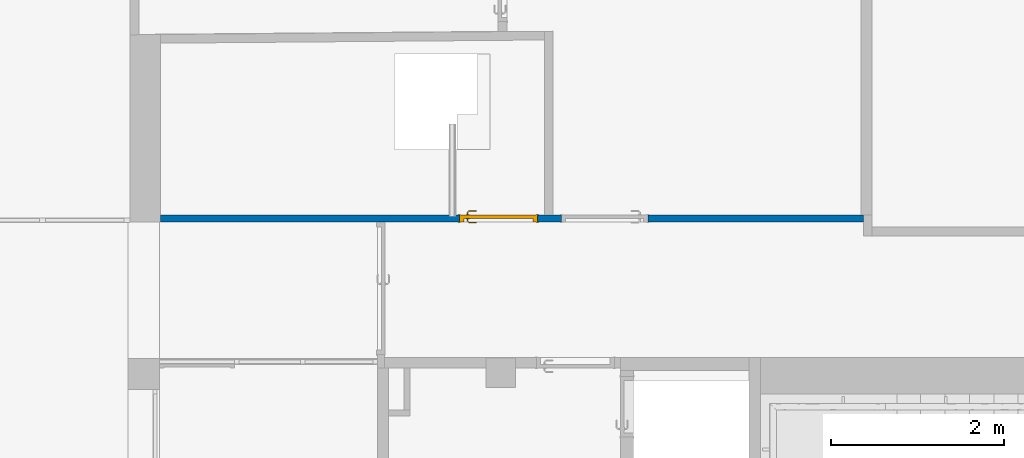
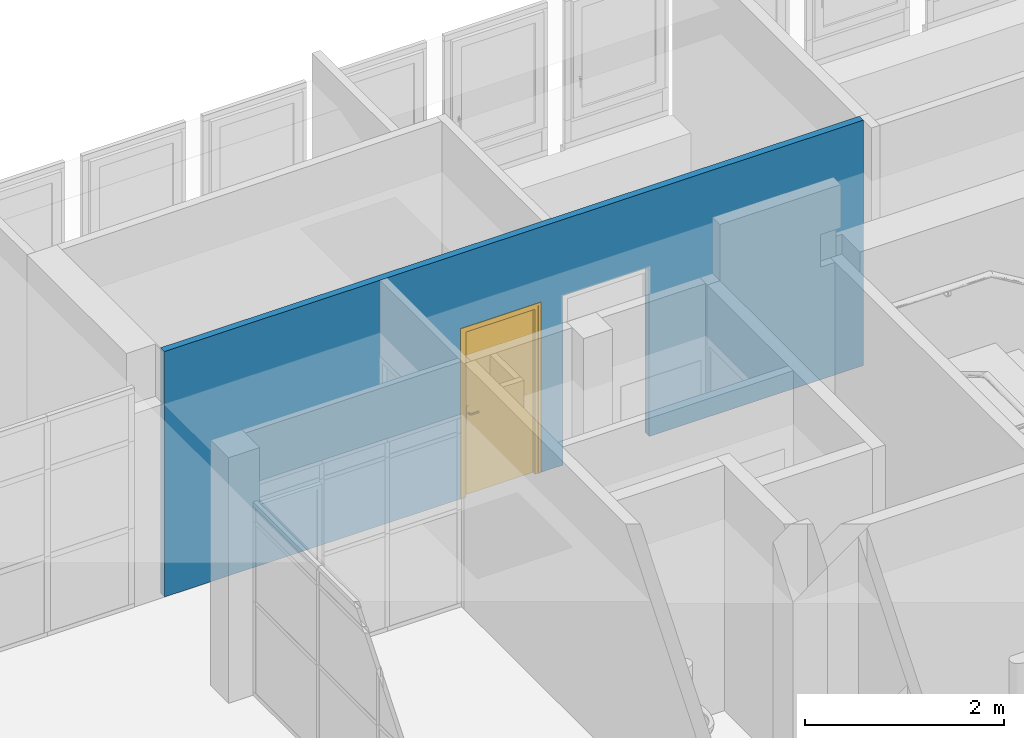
# One storey, part 68 of 97: 1 door, 1 wall, 2 openings.
"""IFC4 building model written with IfcOpenShell, lengths in metres."""

from ifc_helpers import new_model, entity, si_unit, converted_unit, derived_unit, direction, frame, origin, place, context, subcontext, project, spatial, indexed_curve, outline, extrude, polygons, source, transform, mapped, material, material_list, layer, layer_set, constituent, constituent_set, type_object, type_shapes, element, fill, save


model = new_model("IFC4")

# Units and contexts
model_context = context("Model", 3, precision=1e-05, world=origin(), true_north=direction((6.12303176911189e-17, 1.0)))
body_context = subcontext(model_context, "Body", "Model", "MODEL_VIEW")
ifc_project = project(units=[si_unit("LENGTHUNIT", "METRE"), si_unit("AREAUNIT", "SQUARE_METRE"), si_unit("VOLUMEUNIT", "CUBIC_METRE"), converted_unit("PLANEANGLEUNIT", "DEGREE", entity("IfcRatioMeasure", 0.0174532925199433), si_unit("PLANEANGLEUNIT", "RADIAN"), dimensions=[0, 0, 0, 0, 0, 0, 0]), si_unit("MASSUNIT", "GRAM", prefix="KILO"), derived_unit("MASSDENSITYUNIT", [(si_unit("MASSUNIT", "GRAM", prefix="KILO"), 1), (si_unit("LENGTHUNIT", "METRE"), -3)]), derived_unit("MOMENTOFINERTIAUNIT", [(si_unit("LENGTHUNIT", "METRE"), 4)]), si_unit("TIMEUNIT", "SECOND"), si_unit("FREQUENCYUNIT", "HERTZ"), si_unit("THERMODYNAMICTEMPERATUREUNIT", "DEGREE_CELSIUS"), derived_unit("THERMALTRANSMITTANCEUNIT", [(si_unit("MASSUNIT", "GRAM", prefix="KILO"), 1), (si_unit("THERMODYNAMICTEMPERATUREUNIT", "KELVIN"), -1), (si_unit("TIMEUNIT", "SECOND"), -3)]), derived_unit("VOLUMETRICFLOWRATEUNIT", [(si_unit("LENGTHUNIT", "METRE"), 3), (si_unit("TIMEUNIT", "SECOND"), -1)]), si_unit("ELECTRICCURRENTUNIT", "AMPERE"), si_unit("ELECTRICVOLTAGEUNIT", "VOLT"), si_unit("POWERUNIT", "WATT"), si_unit("FORCEUNIT", "NEWTON", prefix="KILO"), si_unit("ILLUMINANCEUNIT", "LUX"), si_unit("LUMINOUSFLUXUNIT", "LUMEN"), si_unit("LUMINOUSINTENSITYUNIT", "CANDELA"), derived_unit("USERDEFINED", [(si_unit("MASSUNIT", "GRAM", prefix="KILO"), -1), (si_unit("LENGTHUNIT", "METRE"), -2), (si_unit("TIMEUNIT", "SECOND"), 3), (si_unit("LUMINOUSFLUXUNIT", "LUMEN"), 1)]), derived_unit("LINEARVELOCITYUNIT", [(si_unit("LENGTHUNIT", "METRE"), 1), (si_unit("TIMEUNIT", "SECOND"), -1)]), si_unit("PRESSUREUNIT", "PASCAL"), derived_unit("USERDEFINED", [(si_unit("LENGTHUNIT", "METRE"), -2), (si_unit("MASSUNIT", "GRAM", prefix="KILO"), 1), (si_unit("TIMEUNIT", "SECOND"), -2)]), derived_unit("LINEARFORCEUNIT", [(si_unit("MASSUNIT", "GRAM", prefix="KILO"), 1), (si_unit("LENGTHUNIT", "METRE"), 1), (si_unit("TIMEUNIT", "SECOND"), -2), (si_unit("LENGTHUNIT", "METRE"), -1)]), derived_unit("PLANARFORCEUNIT", [(si_unit("MASSUNIT", "GRAM", prefix="KILO"), 1), (si_unit("LENGTHUNIT", "METRE"), 1), (si_unit("TIMEUNIT", "SECOND"), -2), (si_unit("LENGTHUNIT", "METRE"), -2)])], contexts=[model_context])

# Site, building, storey
site_placement = place(None, origin())
site = spatial("IfcSite", under=ifc_project, at=site_placement, Name="Default", CompositionType="ELEMENT")
building_placement = place(site_placement, origin())
building = spatial("IfcBuilding", under=site, at=building_placement, Name="HOTEL CONSULAIRE BOULOGNE SUR MER", CompositionType="ELEMENT")
storey_placement = place(building_placement, frame((0.0, 0.0, 3.62152697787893)))
storey = spatial("IfcBuildingStorey", under=building, at=storey_placement, Name="Niveau 1", CompositionType="ELEMENT", Elevation=3.62152697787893)

# Wall, openings, door
ifc_material_1 = material(Name="Mur par défaut", Category="Divers")
ifc_layer = layer(ifc_material_1, 0.08, Name="Mur par défaut", Category="Divers")
ifc_layer_set = layer_set([ifc_layer], Name="Mur de base:Générique - Int. 80")
wall_type = type_object("IfcWallType", Name="Mur de base:Générique - Int. 80", PredefinedType="NOTDEFINED", material=ifc_layer_set)
wall_placement = place(storey_placement, frame((-5.1597731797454, -13.8309141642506, 0.0)))
wall = element("IfcWall", 1, at=wall_placement, inside=storey, type_object=wall_type, material=ifc_layer_set, Name="Mur de base:Générique - Int. 80", ObjectType="Mur de base:Générique - Int. 80", PredefinedType="NOTDEFINED", context=body_context, shape_type="Tessellation", body=[
    polygons([(8.104070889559, 0.0400000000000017, 5.41433564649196e-16), (8.104070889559, -0.0399999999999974, 5.41433564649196e-16), (5.61997356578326, -0.0399999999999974, 5.41433564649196e-16), (5.61997356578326, 0.0400000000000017, 5.41433564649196e-16), (8.074070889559, 0.0400000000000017, 5.41433564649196e-16), (4.34597356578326, -0.0399999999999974, 5.41433564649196e-16), (4.34597356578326, 0.0400000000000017, 5.41433564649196e-16), (4.42697356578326, 0.0400000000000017, 5.41433564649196e-16), (4.52697356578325, 0.0399999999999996, 5.41433564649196e-16), (4.61997356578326, 0.0399999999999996, 5.41433564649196e-16), (4.61997356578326, -0.0399999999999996, 5.41433564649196e-16), (8.104070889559, -0.0399999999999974, 3.0102145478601), (2.57924449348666, -0.0399999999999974, 3.0102145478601), (2.49924449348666, -0.0399999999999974, 3.0102145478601), (-1.96393817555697e-16, -0.0399999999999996, 3.0102145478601), (-1.96393817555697e-16, -0.0399999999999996, 5.41433564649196e-16), (2.49924449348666, -0.0399999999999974, 5.41433564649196e-16), (2.57924449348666, -0.0399999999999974, 5.41433564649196e-16), (3.44597356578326, -0.0399999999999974, 5.41433564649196e-16), (3.44597356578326, -0.0399999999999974, 2.07500000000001), (4.34597356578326, -0.0399999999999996, 2.07500000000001), (4.61997356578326, -0.0399999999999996, 2.07500000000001), (5.61997356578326, -0.0399999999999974, 2.07500000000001), (-4.20095427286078e-16, 0.0399999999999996, 3.0102145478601), (4.42697356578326, 0.0399999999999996, 3.0102145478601), (4.52697356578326, 0.0399999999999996, 3.0102145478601), (8.074070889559, 0.0400000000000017, 3.0102145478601), (8.104070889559, 0.0400000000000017, 3.0102145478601), (5.61997356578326, 0.0400000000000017, 2.07500000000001), (4.61997356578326, 0.0399999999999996, 2.07500000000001), (4.34597356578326, 0.0399999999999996, 2.07500000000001), (3.44597356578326, 0.0400000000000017, 2.07500000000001), (3.44597356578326, 0.0400000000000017, 5.41433564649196e-16), (-4.20095427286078e-16, 0.0399999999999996, 5.41433564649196e-16)], [[[2, 3, 4, 5, 1]], [[11, 6, 7, 8, 9, 10]], [[19, 18, 17, 16, 34, 33]], [[31, 21, 20, 32]], [[23, 22, 30, 29]], [[14, 15, 16, 17, 18, 19, 20, 21, 6, 11, 22, 23, 3, 2, 12, 13]], [[27, 28, 1, 5, 4, 29, 30, 10, 9, 8, 7, 31, 32, 33, 34, 24, 25, 26]], [[13, 12, 28, 27, 26, 25, 24, 15, 14]], [[34, 16, 15, 24]], [[7, 6, 21, 31]], [[3, 23, 29, 4]], [[32, 20, 19, 33]], [[2, 1, 28, 12]], [[11, 10, 30, 22]]], closed=True),
])
opening_1_placement = place(wall_placement, frame((3.44597356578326, -0.0400000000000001, 0.0)))
opening_1 = element("IfcOpeningElement", 2, at=opening_1_placement, cuts=wall, Name="Int. Simple:PP (0.83m x 2.04m):1", ObjectType="Opening", PredefinedType="OPENING", context=body_context, shape_type="SweptSolid", body=[
    extrude(outline(indexed_curve([(0.0, 0.9), (0.0, -5.08607527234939e-30), (2.075, -5.08607527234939e-30), (2.075, 0.9), (0.0, 0.9)], self_intersect=False)), frame((0.0, 0.0, 0.0), z_axis=(0.0, 1.0, 0.0), x_axis=(0.0, 0.0, 1.0)), (0.0, 0.0, 1.0), 0.08),
])
opening_2_placement = place(wall_placement, frame((4.61997356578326, -0.039999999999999, 0.0)))
element("IfcOpeningElement", 3, at=opening_2_placement, cuts=wall, Name="Int. Simple:PP0.93x2.04:1", ObjectType="Opening", PredefinedType="OPENING", context=body_context, shape_type="SweptSolid", body=[
    extrude(outline(indexed_curve([(0.0, -4.28176569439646e-30), (2.075, -4.28176569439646e-30), (2.075, 1.0), (0.0, 1.0), (0.0, -4.28176569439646e-30)], self_intersect=False)), frame((0.0, 0.0, 0.0), z_axis=(0.0, 1.0, 0.0), x_axis=(0.0, 0.0, 1.0)), (0.0, 0.0, 1.0), 0.08),
])
ifc_material_2 = material(Name="Finition Peinture - Blanc satiné", Category="Peinture")
ifc_constituent_1 = constituent(ifc_material_2, Name="Finition Peinture - Blanc satiné", Category="Matériaux")
ifc_material_3 = material(Name="Bois - Panneau de porte", Category="Bois")
ifc_constituent_2 = constituent(ifc_material_3, Name="Bois - Panneau de porte", Category="Matériaux")
ifc_material_4 = material(Name="Bois - Cadre de porte", Category="Bois")
ifc_constituent_3 = constituent(ifc_material_4, Name="Bois - Cadre de porte", Category="Matériaux")
ifc_constituent_set = constituent_set(constituents=[ifc_constituent_1, ifc_constituent_2, ifc_constituent_3], Name="MaterialConstituentSet")
ifc_material_list = material_list([ifc_material_4, ifc_material_4, ifc_material_3, ifc_material_2])
door_type = type_object("IfcDoorType", Name="Int. Simple:PP (0.83m x 2.04m)", OperationType="NOTDEFINED", PredefinedType="DOOR", material=ifc_material_list)
shared_shape = source(origin(), body_context, "Body", "Tessellation", [
    polygons([(0.895000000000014, -0.00500000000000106, 0.870000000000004), (0.895000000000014, -0.00500000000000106, 1.08), (0.885352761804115, -0.00500000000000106, 1.08399601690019), (0.875000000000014, -0.00500000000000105, 1.08535898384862), (0.864647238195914, -0.00500000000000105, 1.08399601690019), (0.855000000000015, -0.00500000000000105, 1.08), (0.855000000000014, -0.00500000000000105, 0.870000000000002), (0.864647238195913, -0.00500000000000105, 0.866003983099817), (0.875000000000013, -0.00500000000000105, 0.86464101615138), (0.885352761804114, -0.00500000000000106, 0.866003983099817), (0.895000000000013, -1.06594733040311e-15, 0.870000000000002), (0.885352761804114, -1.06594733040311e-15, 0.866003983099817), (0.875000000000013, -1.05748743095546e-15, 0.86464101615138), (0.864647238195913, -1.05748743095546e-15, 0.866003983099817), (0.855000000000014, -1.04902753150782e-15, 0.870000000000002), (0.855000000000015, -1.04902753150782e-15, 1.08), (0.864647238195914, -1.05748743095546e-15, 1.08399601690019), (0.875000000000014, -1.05748743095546e-15, 1.08535898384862), (0.885352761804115, -1.06594733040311e-15, 1.08399601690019), (0.895000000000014, -1.06594733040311e-15, 1.08)], [[[1, 2, 3, 4, 5, 6, 7, 8, 9, 10]], [[20, 11, 12, 13, 14, 15, 16, 17, 18, 19]], [[10, 12, 11, 1]], [[9, 13, 12, 10]], [[8, 14, 13, 9]], [[8, 7, 15, 14]], [[15, 7, 6, 16]], [[5, 17, 16, 6]], [[4, 18, 17, 5]], [[3, 19, 18, 4]], [[3, 2, 20, 19]], [[11, 20, 2, 1]]], closed=True),
    polygons([(0.855000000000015, 0.0399999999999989, 1.08), (0.855000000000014, 0.0399999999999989, 0.870000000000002), (0.864647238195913, 0.0399999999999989, 0.866003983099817), (0.875000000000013, 0.0399999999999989, 0.86464101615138), (0.885352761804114, 0.0399999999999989, 0.866003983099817), (0.895000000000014, 0.0399999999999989, 0.870000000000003), (0.895000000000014, 0.0399999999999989, 1.08), (0.885352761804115, 0.0399999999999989, 1.08399601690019), (0.875000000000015, 0.0399999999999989, 1.08535898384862), (0.864647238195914, 0.0399999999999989, 1.08399601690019), (0.855000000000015, 0.0449999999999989, 1.08), (0.864647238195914, 0.0449999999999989, 1.08399601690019), (0.875000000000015, 0.0449999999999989, 1.08535898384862), (0.885352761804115, 0.0449999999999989, 1.08399601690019), (0.895000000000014, 0.0449999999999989, 1.08), (0.895000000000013, 0.0449999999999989, 0.870000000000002), (0.885352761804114, 0.0449999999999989, 0.866003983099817), (0.875000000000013, 0.0449999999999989, 0.86464101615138), (0.864647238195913, 0.0449999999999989, 0.866003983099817), (0.855000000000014, 0.0449999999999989, 0.870000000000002)], [[[6, 7, 8, 9, 10, 1, 2, 3, 4, 5]], [[13, 14, 15, 16, 17, 18, 19, 20, 11, 12]], [[10, 12, 11, 1]], [[9, 13, 12, 10]], [[8, 14, 13, 9]], [[8, 7, 15, 14]], [[16, 15, 7, 6]], [[5, 17, 16, 6]], [[4, 18, 17, 5]], [[3, 19, 18, 4]], [[3, 2, 20, 19]], [[20, 2, 1, 11]]], closed=True),
    polygons([(0.881000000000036, -0.00500000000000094, 1.00699999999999), (0.881000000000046, -0.00500000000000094, 0.992999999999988), (0.877025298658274, -0.00500000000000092, 0.99221955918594), (0.872974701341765, -0.0050000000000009, 0.992219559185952), (0.868999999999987, -0.00500000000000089, 0.993000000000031), (0.868999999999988, -0.00500000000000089, 1.007), (0.872974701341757, -0.0050000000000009, 1.00778044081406), (0.877025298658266, -0.00500000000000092, 1.00778044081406), (0.868999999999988, -0.0276803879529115, 1.007), (0.872974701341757, -0.0293267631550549, 1.00778044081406), (0.877025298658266, -0.0310045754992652, 1.00778044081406), (0.881000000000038, -0.0326509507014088, 1.007), (0.868999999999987, -0.0276803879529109, 0.993000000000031), (0.881000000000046, -0.0326509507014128, 0.992999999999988), (0.877025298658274, -0.0310045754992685, 0.99221955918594), (0.872974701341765, -0.0293267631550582, 0.992219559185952), (0.85765222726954, -0.0390281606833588, 1.007), (0.859298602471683, -0.0430028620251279, 1.00778044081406), (0.860976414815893, -0.0470534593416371, 1.00778044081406), (0.862622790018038, -0.0510281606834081, 1.007), (0.857652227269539, -0.0390281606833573, 0.993000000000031), (0.862622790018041, -0.0510281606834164, 0.992999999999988), (0.860976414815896, -0.047053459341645, 0.99221955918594), (0.859298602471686, -0.0430028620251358, 0.992219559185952), (0.774981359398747, -0.0510281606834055, 1.007), (0.774981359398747, -0.0470534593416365, 1.00778044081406), (0.774981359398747, -0.0430028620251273, 1.00778044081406), (0.774981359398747, -0.0390281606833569, 1.00699999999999), (0.774981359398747, -0.0390281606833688, 0.993000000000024), (0.774981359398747, -0.0430028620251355, 0.992219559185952), (0.774981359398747, -0.0470534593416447, 0.99221955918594), (0.774981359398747, -0.0510281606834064, 0.992999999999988), (0.822692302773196, -0.051028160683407, 1.007), (0.81713998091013, -0.045028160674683, 1.0078786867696), (0.816316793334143, -0.039028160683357, 1.007), (0.822692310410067, -0.0510281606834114, 0.992999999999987), (0.817139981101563, -0.0450281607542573, 0.992121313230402), (0.816316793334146, -0.039028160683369, 0.993000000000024)], [[[7, 8, 1, 2, 3, 4, 5, 6]], [[17, 21, 38, 29, 28, 35]], [[1, 8, 11, 12]], [[8, 7, 10, 18, 19, 11]], [[7, 6, 9, 10]], [[13, 9, 6, 5]], [[25, 26, 27, 28, 29, 30, 31, 32]], [[4, 16, 13, 5]], [[4, 3, 15, 23, 24, 16]], [[2, 14, 15, 3]], [[12, 14, 2, 1]], [[12, 11, 19, 20]], [[10, 9, 17, 18]], [[21, 17, 9, 13]], [[13, 16, 24, 21]], [[15, 14, 22, 23]], [[20, 22, 14, 12]], [[34, 26, 33]], [[33, 26, 25]], [[33, 20, 19]], [[18, 35, 34]], [[35, 18, 17]], [[28, 27, 35]], [[34, 27, 26]], [[34, 35, 27]], [[34, 33, 19]], [[18, 34, 19]], [[37, 30, 38]], [[31, 37, 36]], [[24, 38, 21]], [[30, 29, 38]], [[31, 36, 32]], [[36, 23, 22]], [[37, 23, 36]], [[37, 24, 23]], [[37, 38, 24]], [[30, 37, 31]], [[22, 20, 33, 25, 32, 36]]], closed=True),
    polygons([(0.868999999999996, 0.0449999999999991, 0.993000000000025), (0.872974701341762, 0.0449999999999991, 0.992219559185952), (0.877025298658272, 0.0449999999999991, 0.99221955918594), (0.881000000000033, 0.044999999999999, 0.992999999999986), (0.881000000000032, 0.044999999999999, 1.007), (0.877025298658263, 0.0449999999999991, 1.00778044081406), (0.872974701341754, 0.0449999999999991, 1.00778044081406), (0.868999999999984, 0.0449999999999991, 1.007), (0.868999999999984, 0.067485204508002, 1.007), (0.868999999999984, 0.0674852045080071, 0.993000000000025), (0.881000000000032, 0.0724557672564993, 1.007), (0.877025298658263, 0.070809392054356, 1.00778044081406), (0.872974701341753, 0.0691315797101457, 1.00778044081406), (0.881000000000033, 0.0724557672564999, 0.992999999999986), (0.872974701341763, 0.0691315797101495, 0.992219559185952), (0.877025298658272, 0.0708093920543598, 0.99221955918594), (0.857514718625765, 0.0789704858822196, 1.007), (0.857514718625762, 0.0789704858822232, 0.993000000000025), (0.862485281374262, 0.0909704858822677, 1.007), (0.860838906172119, 0.0869957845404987, 1.00778044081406), (0.859161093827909, 0.0829451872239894, 1.00778044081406), (0.862485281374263, 0.0909704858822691, 0.992999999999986), (0.859161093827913, 0.0829451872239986, 0.992219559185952), (0.860838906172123, 0.0869957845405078, 0.99221955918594), (0.77495421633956, 0.0789704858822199, 0.993000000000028), (0.77495421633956, 0.0789704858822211, 1.007), (0.77495421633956, 0.0829451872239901, 1.00778044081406), (0.77495421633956, 0.0869957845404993, 1.00778044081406), (0.77495421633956, 0.0909704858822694, 1.007), (0.77495421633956, 0.0909704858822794, 0.992999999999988), (0.77495421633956, 0.086995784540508, 0.99221955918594), (0.77495421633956, 0.0829451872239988, 0.992219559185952), (0.822554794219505, 0.0909704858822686, 1.007), (0.817057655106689, 0.0849704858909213, 1.0078786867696), (0.816234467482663, 0.0789704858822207, 1.007), (0.822554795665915, 0.0909704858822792, 0.992999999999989), (0.817057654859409, 0.0849704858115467, 0.992121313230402), (0.816234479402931, 0.0789704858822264, 0.993000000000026)], [[[2, 3, 4, 5, 6, 7, 8, 1]], [[18, 17, 35, 26, 25, 38]], [[9, 10, 1, 8]], [[27, 28, 29, 30, 31, 32, 25, 26]], [[7, 13, 9, 8]], [[7, 6, 12, 20, 21, 13]], [[5, 11, 12, 6]], [[11, 5, 4, 14]], [[4, 3, 16, 14]], [[3, 2, 15, 23, 24, 16]], [[2, 1, 10, 15]], [[17, 18, 10, 9]], [[9, 13, 21, 17]], [[11, 19, 20, 12]], [[22, 19, 11, 14]], [[14, 16, 24, 22]], [[15, 10, 18, 23]], [[34, 27, 35]], [[28, 34, 33]], [[21, 35, 17]], [[27, 26, 35]], [[28, 33, 29]], [[33, 20, 19]], [[34, 20, 33]], [[34, 21, 20]], [[34, 35, 21]], [[27, 34, 28]], [[19, 22, 36, 30, 29, 33]], [[37, 31, 36]], [[36, 31, 30]], [[36, 22, 24]], [[23, 38, 37]], [[38, 23, 18]], [[25, 32, 38]], [[37, 32, 31]], [[37, 38, 32]], [[37, 36, 24]], [[23, 37, 24]]], closed=True),
    polygons([(0.935000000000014, 0.04, 2.04), (0.935000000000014, 0.04, 0.0), (0.105000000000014, 0.04, 0.0), (0.105000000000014, 0.04, 2.04), (0.935000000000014, 3.38395977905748e-17, 2.04), (0.105000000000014, 3.38395977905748e-17, 2.04), (0.105000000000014, 3.38395977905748e-17, 0.0), (0.935000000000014, 3.38395977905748e-17, 0.0)], [[[3, 4, 1, 2]], [[5, 6, 7, 8]], [[5, 1, 4, 6]], [[6, 4, 3, 7]], [[8, 7, 3, 2]], [[8, 2, 1, 5]]], closed=True),
    polygons([(0.970000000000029, -8.45989944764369e-18, 0.0), (0.935000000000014, -8.45989944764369e-18, 0.0), (0.935000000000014, 0.0400000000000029, 0.0), (0.920000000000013, 0.0400000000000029, 0.0), (0.920000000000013, 0.080000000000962, 0.0), (0.970000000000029, 0.080000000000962, 0.0), (0.970000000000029, 0.080000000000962, 2.07500000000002), (0.970000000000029, -8.45989944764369e-18, 2.07500000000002), (0.920000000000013, 0.080000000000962, 2.025), (0.120000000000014, 0.080000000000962, 2.025), (0.120000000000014, 0.080000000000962, 6.02669015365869e-24), (0.0699999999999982, 0.080000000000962, 9.23443718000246e-25), (0.0699999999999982, 0.080000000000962, 2.07500000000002), (0.920000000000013, 0.0400000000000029, 2.025), (0.935000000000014, 0.0400000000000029, 2.04), (0.105000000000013, 0.0400000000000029, 2.04), (0.105000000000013, 0.0400000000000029, 1.51399294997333e-24), (0.120000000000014, 0.0400000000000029, 1.99209609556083e-25), (0.120000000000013, 0.0400000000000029, 2.025), (0.935000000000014, -8.45989944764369e-18, 2.04), (0.0699999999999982, -8.45989944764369e-18, 2.07500000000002), (0.0699999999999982, -8.45989944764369e-18, 1.81925185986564e-24), (0.105000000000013, -8.45989944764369e-18, 3.40121094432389e-24), (0.105000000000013, -8.45989944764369e-18, 2.04)], [[[5, 6, 1, 2, 3, 4]], [[17, 23, 22, 12, 11, 18]], [[19, 10, 9, 14]], [[24, 16, 15, 20]], [[7, 8, 1, 6]], [[18, 11, 10, 19]], [[17, 16, 24, 23]], [[9, 10, 11, 12, 13, 7, 6, 5]], [[14, 9, 5, 4]], [[15, 3, 2, 20]], [[12, 22, 21, 13]], [[19, 14, 4, 3, 15, 16, 17, 18]], [[24, 20, 2, 1, 8, 21, 22, 23]], [[13, 21, 8, 7]]], closed=True),
    polygons([(0.955000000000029, 0.080000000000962, 1.35358391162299e-16), (0.955000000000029, 0.085000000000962, 1.35358391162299e-16), (0.985000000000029, 0.085000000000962, 1.35358391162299e-16), (0.985000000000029, 0.080000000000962, 1.35358391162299e-16), (0.985000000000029, 0.080000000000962, 2.09000000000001), (0.0550000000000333, 0.080000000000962, 2.09000000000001), (0.0550000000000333, 0.080000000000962, -5.44393448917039e-24), (0.0850000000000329, 0.080000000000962, 5.09144898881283e-24), (0.0850000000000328, 0.080000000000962, 2.06000000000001), (0.955000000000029, 0.080000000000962, 2.06000000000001), (0.985000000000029, 0.085000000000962, 2.09000000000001), (0.955000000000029, 0.085000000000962, 2.06000000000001), (0.0850000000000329, 0.085000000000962, 2.06000000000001), (0.0850000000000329, 0.085000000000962, -1.89153776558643e-24), (0.055000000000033, 0.085000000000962, 5.03766794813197e-24), (0.0550000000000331, 0.085000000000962, 2.09000000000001)], [[[2, 3, 4, 1]], [[7, 15, 14, 8]], [[13, 12, 10, 9]], [[9, 10, 1, 4, 5, 6, 7, 8]], [[11, 5, 4, 3]], [[8, 14, 13, 9]], [[12, 13, 14, 15, 16, 11, 3, 2]], [[10, 12, 2, 1]], [[15, 7, 6, 16]], [[16, 6, 5, 11]]], closed=True),
    polygons([(0.955000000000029, -0.00499999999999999, 1.35358391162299e-16), (0.955000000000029, -8.45989944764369e-18, 1.35358391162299e-16), (0.985000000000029, -8.45989944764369e-18, 1.35358391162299e-16), (0.985000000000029, -0.00499999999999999, 1.35358391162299e-16), (0.0850000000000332, -0.00499999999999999, -1.35358391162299e-16), (0.0550000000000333, -0.00499999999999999, -1.35358391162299e-16), (0.055000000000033, -8.45989944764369e-18, -1.35358391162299e-16), (0.0850000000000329, -8.45989944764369e-18, -1.35358391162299e-16), (0.985000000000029, -0.00499999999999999, 2.09000000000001), (0.0550000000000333, -0.00499999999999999, 2.09000000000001), (0.0850000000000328, -0.00499999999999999, 2.06000000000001), (0.955000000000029, -0.00499999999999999, 2.06000000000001), (0.985000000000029, -8.45989944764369e-18, 2.09000000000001), (0.955000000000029, -8.45989944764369e-18, 2.06000000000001), (0.0850000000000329, -8.45989944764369e-18, 2.06000000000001), (0.0550000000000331, -8.45989944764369e-18, 2.09000000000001)], [[[2, 3, 4, 1]], [[6, 7, 8, 5]], [[11, 15, 14, 12]], [[11, 12, 1, 4, 9, 10, 6, 5]], [[9, 4, 3, 13]], [[5, 8, 15, 11]], [[14, 15, 8, 7, 16, 13, 3, 2]], [[12, 14, 2, 1]], [[7, 6, 10, 16]], [[16, 10, 9, 13]]], closed=True),
])
type_shapes(door_type, [shared_shape])
door_placement = place(opening_1_placement, frame((0.970000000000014, 0.0799999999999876, 0.0), z_axis=(0.0, 0.0, 1.0), x_axis=(-1.0, 0.0, 0.0)))
door = element("IfcDoor", 4, at=door_placement, inside=storey, type_object=door_type, material=ifc_constituent_set, Name="Int. Simple:PP (0.83m x 2.04m)", ObjectType="Int. Simple:PP (0.83m x 2.04m)", OperationType="NOTDEFINED", OverallHeight=2.075, OverallWidth=0.9, PredefinedType="DOOR", context=body_context, shape_type="MappedRepresentation", body=[
    mapped(shared_shape, transform((0.0, 0.0, 0.0), scale=1.0)),
])
fill(opening_1, door)

save(model, "model.ifc")
